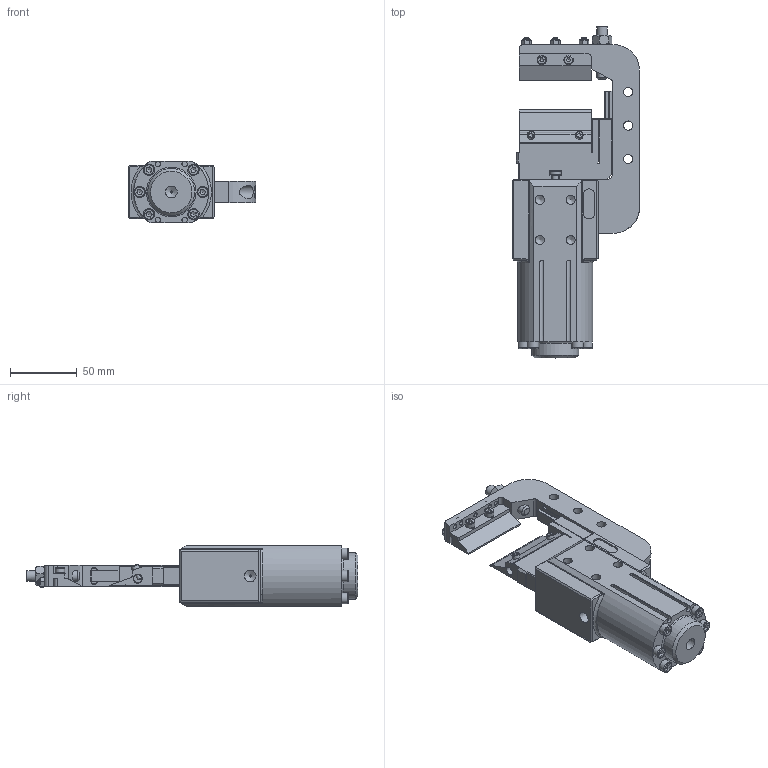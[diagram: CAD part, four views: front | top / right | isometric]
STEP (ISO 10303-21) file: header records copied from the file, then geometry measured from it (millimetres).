
FILE_DESCRIPTION(/* description */ (''),/* implementation_level */ '2;1');
FILE_NAME(/* name */ 'GT-N50H-40.stp',/* time_stamp */ '2022-06-28T10:05:25+08:00',/* author */ (''),/* organization */ (''),/* preprocessor_version */ 'ST-DEVELOPER v16',/* originating_system */ 'SIEMENS PLM Software NX 10.0',/* authorisation */ '');
FILE_SCHEMA (('AUTOMOTIVE_DESIGN { 1 0 10303 214 3 1 1 1 }'));
Length unit declared in the file: millimetre
Products named in the file (1): Admi2408D5D05y5z
Bounding box: 95 x 247.8 x 46 mm (x, y, z)
Volume: 393330 mm3; surface area: 91080.8 mm2
Topology: 1 solids, 48 shells, 992 faces, 2375 edges, 1514 vertices
Faces by surface type: plane 582, cylinder 255, cone 106, torus 32, bspline 15, revolution 2
Full cylindrical faces by diameter (mm): 1.5 x3, 2.5 x2, 3 x4, 3.3 x13, 3.4 x4, 4 x13, 4.2 x24, 4.5 x2, 5 x13, 5.2 x7, 5.5 x6, 6 x6, 6.1 x2, 6.8 x11, 7 x2, 8 x8, 8.02 x2, 8.3 x2, 8.5 x13, 8.8 x3, 9 x2, 10 x6, 10.05 x2, 10.5 x1, 11 x1, 12 x5, 14 x3, 15 x1, 17.5 x2, 24 x1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
Entity records: 35662 total; most frequent: CARTESIAN_POINT 8944, DIRECTION 4340, ORIENTED_EDGE 3768, EDGE_CURVE 1884, AXIS2_PLACEMENT_3D 1633, EDGE_LOOP 1411, VERTEX_POINT 1366, LINE 1072
